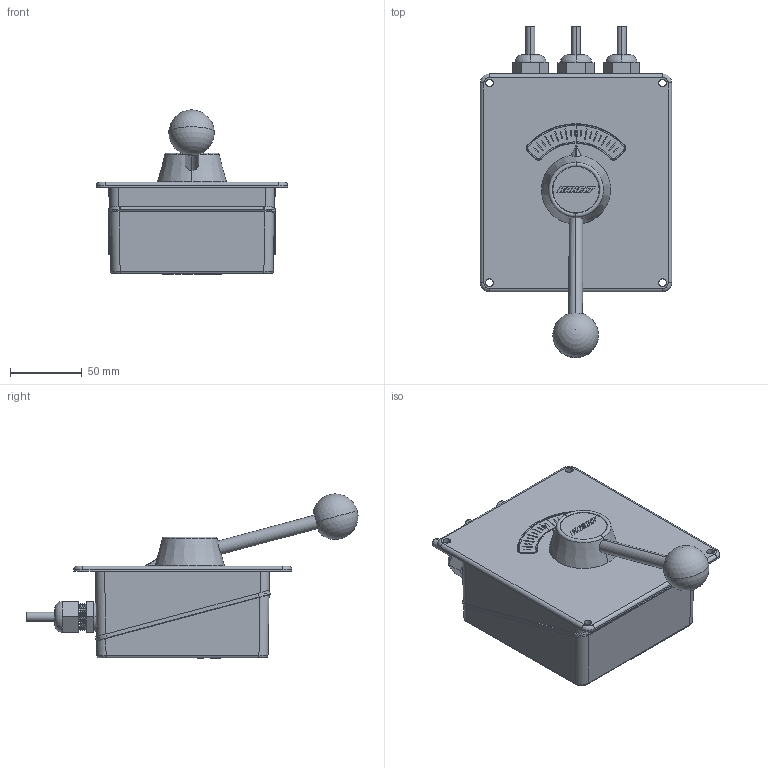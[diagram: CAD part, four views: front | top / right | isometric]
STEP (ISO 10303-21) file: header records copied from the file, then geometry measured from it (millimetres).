
FILE_DESCRIPTION (( 'STEP AP214' ), '1' );
FILE_NAME ('7171.STEP', '2019-06-04T12:46:37', ( '' ), ( '' ), 'SwSTEP 2.0', 'SolidWorks 2019', '' );
FILE_SCHEMA (( 'AUTOMOTIVE_DESIGN' ));
Length unit declared in the file: inch
Products named in the file (1): 7171
Bounding box: 133.35 x 231.35 x 114.4 mm (x, y, z)
Surface area: 93117.8 mm2 (no closed solid volume)
Topology: 0 solids, 32 shells, 547 faces, 2125 edges, 1537 vertices
Faces by surface type: plane 308, cone 81, bspline 77, cylinder 58, torus 21, sphere 2
Entity records: 35782 total; most frequent: CARTESIAN_POINT 12618, ORIENTED_EDGE 3139, DIRECTION 2845, EDGE_CURVE 2120, VERTEX_POINT 1534, VECTOR 1011, LINE 1011, AXIS2_PLACEMENT_3D 917
